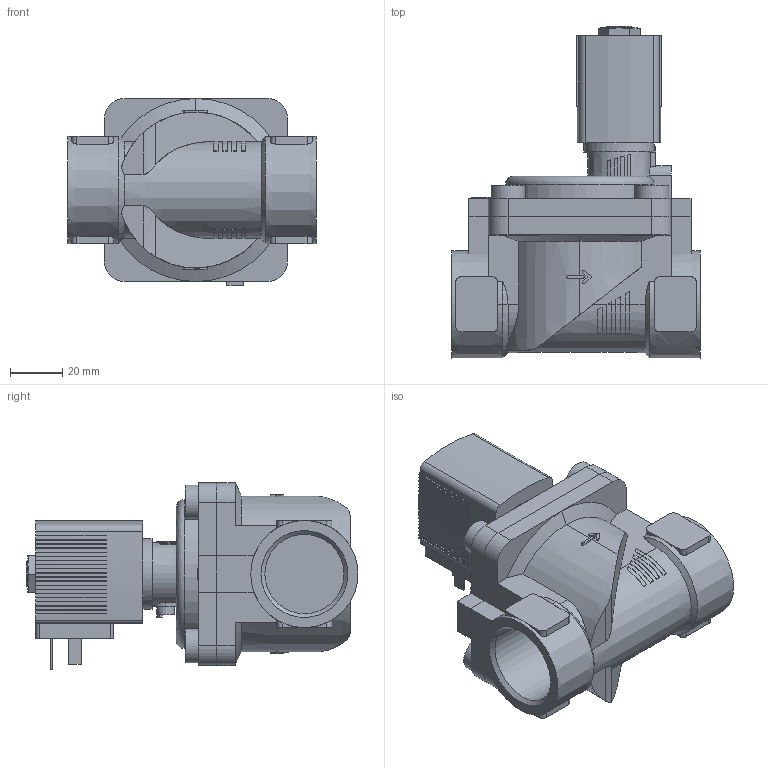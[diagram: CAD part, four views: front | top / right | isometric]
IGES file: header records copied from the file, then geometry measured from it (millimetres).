
Start section: Data from Parasolid IGES Translator 26.0.171, Copyright(c) 2006 Siemens PLM Software. All Rights Reserved.
Global section: file name: 6281-297149-2_2-Way_Solenoid_Valve__Servo-assisted__General_Purpose.igs; native system: By Siemens PLM Incorporated; preprocessor: XPlus GENERIC/IGES 26.0.171; author: Noname; organization: Noname; date: 20240527.113016; units: millimetre
Bounding box: 95 x 127 x 71.5 mm (x, y, z)
Surface area: 55787.9 mm2 (no closed solid volume)
Topology: 0 solids, 0 shells, 569 faces, 3188 edges, 3168 vertices
Faces by surface type: extrusion 447, revolution 122
